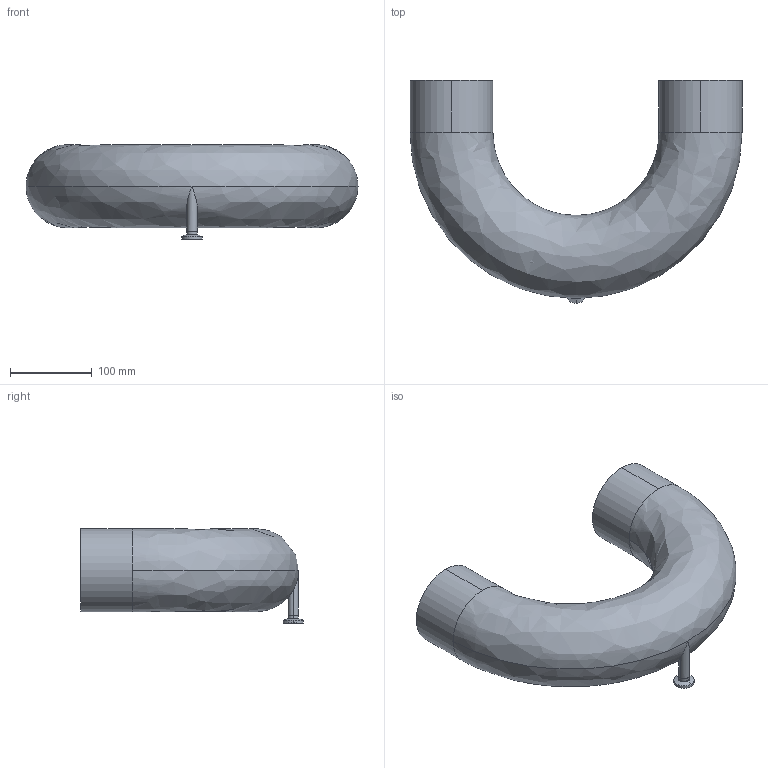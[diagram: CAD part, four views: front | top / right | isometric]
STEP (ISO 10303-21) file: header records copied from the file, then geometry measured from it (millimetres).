
FILE_DESCRIPTION (( 'STEP AP214' ), '1' );
FILE_NAME ('TE2USWWC6L4.0x.5-...STEP', '2016-05-25T05:43:51', ( 'eran' ), ( '' ), 'SwSTEP 2.0', 'SolidWorks 2016', '' );
FILE_SCHEMA (( 'AUTOMOTIVE_DESIGN' ));
Length unit declared in the file: millimetre
Products named in the file (1): TE2USWWC6L4.0x.5-..
Bounding box: 406.4 x 272.85 x 115.8 mm (x, y, z)
Volume: 402905.3 mm3; surface area: 383705.7 mm2
Topology: 2 solids, 2 shells, 43 faces, 104 edges, 65 vertices
Faces by surface type: cylinder 20, bspline 12, plane 7, cone 4
Entity records: 1691 total; most frequent: CARTESIAN_POINT 640, DIRECTION 226, ORIENTED_EDGE 208, EDGE_CURVE 104, AXIS2_PLACEMENT_3D 101, CIRCLE 69, VERTEX_POINT 65, EDGE_LOOP 49
